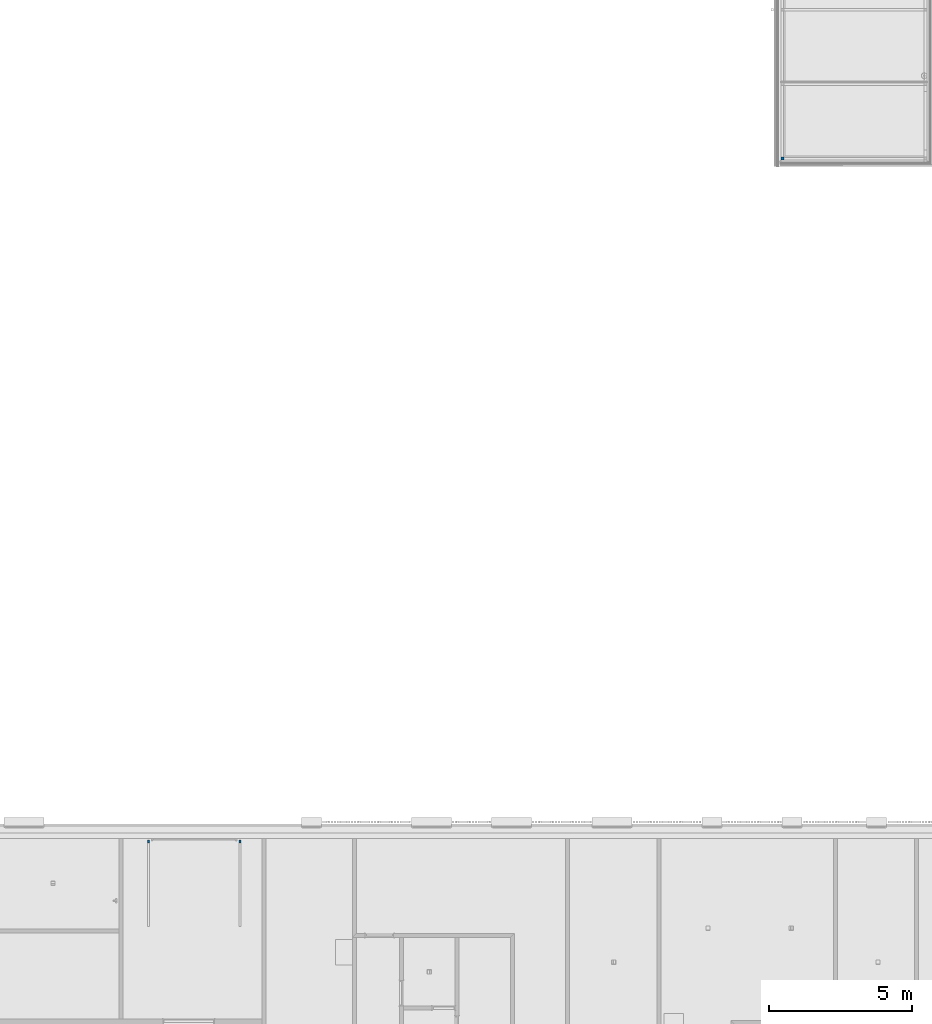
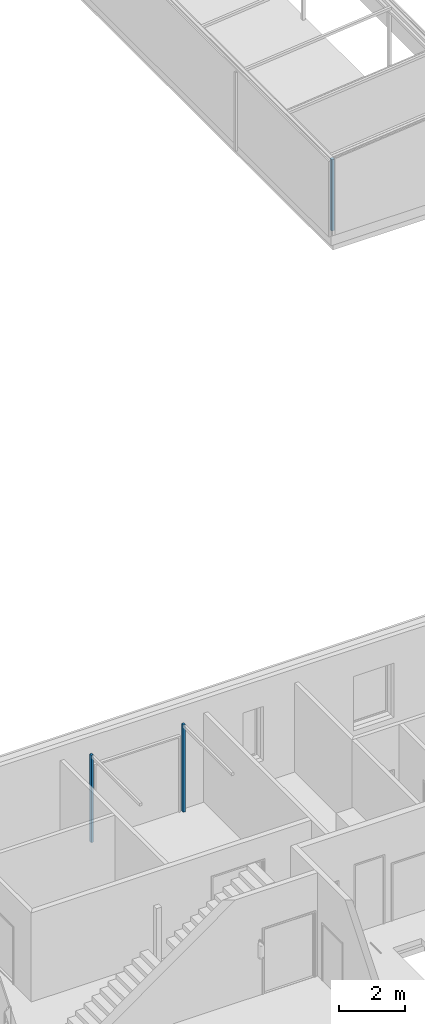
# One storey, part 6 of 112: 3 columns.
"""IFC2X3 building model written with IfcOpenShell, lengths in millimetres."""

import ifcopenshell
import ifcopenshell.guid

model = None  # the IFC model being written
_history = None  # IfcOwnerHistory: only IFC2X3 demands one
_inside = {}  # id of a spatial element -> (the spatial element, [elements in it])
_under = {}  # id of a project, library or spatial element -> (it, [spatial elements below it])
_declared = {}  # id of a project -> (the project, [libraries it declares])
_typed = {}  # id of a type object -> (the type object, [elements of that type])
_made_of = {}  # id of a material, layer set ... -> (it, [elements and type objects made of it])


def new_model(schema):
    """Start an empty IFC model of exactly this schema.

    Asked for "IFC4X3", IfcOpenShell would pick the latest addendum, in which some entities
    have other attributes; the version numbers below select the first issue.
    IFC2X3 requires an IfcOwnerHistory on every rooted entity: one is made here for all.
    """
    global model, _history
    if schema == "IFC4X3":
        model = ifcopenshell.file(schema_version=(4, 3, 0, 0))
    else:
        model = ifcopenshell.file(schema=schema)
    _inside.clear()
    _under.clear()
    _declared.clear()
    _typed.clear()
    _made_of.clear()
    _history = None
    if model.schema == "IFC2X3":
        org = make("IfcOrganization", Name="unknown")
        user = make(
            "IfcPersonAndOrganization",
            ThePerson=make("IfcPerson", FamilyName="unknown"),
            TheOrganization=org,
        )
        app = make(
            "IfcApplication",
            ApplicationDeveloper=org,
            Version="unknown",
            ApplicationFullName="unknown",
            ApplicationIdentifier="unknown",
        )
        _history = make(
            "IfcOwnerHistory",
            OwningUser=user,
            OwningApplication=app,
            ChangeAction="ADDED",
            CreationDate=0,
        )
    return model


def make(cls, **values):
    """One entity of the class cls with the attributes given. An attribute that is None is left unset."""
    return model.create_entity(
        cls, **{name: value for name, value in values.items() if value is not None}
    )


def entity(cls, *values):
    """Any entity or typed value of the class cls, its attributes in the order of the schema. None: left unset."""
    e = model.create_entity(cls)
    for i, value in enumerate(values):
        if value is not None:
            e[i] = value
    return e


def rooted(cls, **values):
    """An entity with a GlobalId (a new one), such as an element, a storey or a relation."""
    return make(cls, GlobalId=ifcopenshell.guid.new(), OwnerHistory=_history, **values)


def si_unit(unit_type, name, prefix=None):
    """IfcSIUnit, for example si_unit("LENGTHUNIT", "METRE", prefix="MILLI")."""
    return make("IfcSIUnit", UnitType=unit_type, Prefix=prefix, Name=name)


def converted_unit(unit_type, name, factor, base, dimensions=None, offset=None):
    """IfcConversionBasedUnit, such as the inch: factor (a typed value) times the base unit."""
    return make(
        "IfcConversionBasedUnit"
        if offset is None
        else "IfcConversionBasedUnitWithOffset",
        ConversionOffset=offset,
        Dimensions=None
        if dimensions is None
        else entity("IfcDimensionalExponents", *dimensions),
        UnitType=unit_type,
        Name=name,
        ConversionFactor=make(
            "IfcMeasureWithUnit", ValueComponent=factor, UnitComponent=base
        ),
    )


def derived_unit(unit_type, elements):
    """IfcDerivedUnit: a product of units, each with its exponent."""
    return make(
        "IfcDerivedUnit",
        Elements=[
            make("IfcDerivedUnitElement", Unit=unit, Exponent=power)
            for unit, power in elements
        ],
        UnitType=unit_type,
    )


def money_unit(currency):
    """IfcMonetaryUnit."""
    return make("IfcMonetaryUnit", Currency=currency)


def assignment(units):
    """IfcUnitAssignment: the units of a project."""
    return None if units is None else make("IfcUnitAssignment", Units=units)


def point(xyz):
    """IfcCartesianPoint."""
    return None if xyz is None else make("IfcCartesianPoint", Coordinates=xyz)


def direction(xyz):
    """IfcDirection."""
    return None if xyz is None else make("IfcDirection", DirectionRatios=xyz)


def frame(location, z_axis=None, x_axis=None):
    """IfcAxis2Placement3D, a coordinate frame: its origin and axes. An axis left out is left unset."""
    return make(
        "IfcAxis2Placement3D",
        Location=point(location),
        Axis=direction(z_axis),
        RefDirection=direction(x_axis),
    )


def frame_2d(location, x_axis=None):
    """IfcAxis2Placement2D, a coordinate frame in the plane: its origin and x axis."""
    return make(
        "IfcAxis2Placement2D", Location=point(location), RefDirection=direction(x_axis)
    )


def origin_with_axes():
    """The frame at (0, 0, 0) with the z axis (0, 0, 1) and the x axis (1, 0, 0) written out."""
    return frame((0.0, 0.0, 0.0), z_axis=(0.0, 0.0, 1.0), x_axis=(1.0, 0.0, 0.0))


def origin_2d_with_axis():
    """The frame at (0, 0) in the plane with the x axis (1, 0) written out."""
    return frame_2d((0.0, 0.0), x_axis=(1.0, 0.0))


def place(relative_to, where):
    """IfcLocalPlacement: puts the frame where relative to a parent placement (None: the world)."""
    return make(
        "IfcLocalPlacement", PlacementRelTo=relative_to, RelativePlacement=where
    )


def context(
    kind, dimensions, precision=None, world=None, true_north=None, identifier=None
):
    """IfcGeometricRepresentationContext, for example the 3D "Model" context."""
    return make(
        "IfcGeometricRepresentationContext",
        ContextIdentifier=identifier,
        ContextType=kind,
        CoordinateSpaceDimension=dimensions,
        Precision=precision,
        WorldCoordinateSystem=world,
        TrueNorth=true_north,
    )


def subcontext(parent, identifier, kind, view, scale=None):
    """IfcGeometricRepresentationSubContext, for example "Body" below "Model"."""
    return make(
        "IfcGeometricRepresentationSubContext",
        ContextIdentifier=identifier,
        ContextType=kind,
        ParentContext=parent,
        TargetScale=scale,
        TargetView=view,
    )


def project(units=None, contexts=None):
    """IfcProject with its units and contexts."""
    return rooted(
        "IfcProject",
        Name="project",
        RepresentationContexts=contexts,
        UnitsInContext=assignment(units),
    )


def spatial(cls, under=None, at=None, **own):
    """A site, building, storey or space (cls), placed at a placement, below another one or the project."""
    s = rooted(cls, ObjectPlacement=at, **own)
    if under is not None:
        _under.setdefault(under.id(), (under, []))[1].append(s)
    return s


def profile(cls, at=None, kind="AREA", **sizes):
    """A parametric profile (cls). Its sizes go by their IFC names, for example OverallWidth=200.0."""
    return make(cls, ProfileType=kind, Position=at, **sizes)


def rectangle(**sizes):
    """IfcRectangleProfileDef."""
    return profile("IfcRectangleProfileDef", **sizes)


def extrude(swept, where, along, depth):
    """IfcExtrudedAreaSolid: the profile swept, set in the frame where, extruded along a direction by depth."""
    return make(
        "IfcExtrudedAreaSolid",
        SweptArea=swept,
        Position=where,
        ExtrudedDirection=direction(along),
        Depth=depth,
    )


def shape(context_of_items, identifier, shape_type, items):
    """IfcShapeRepresentation: the items that make up one representation, for example the "Body"."""
    return make(
        "IfcShapeRepresentation",
        ContextOfItems=context_of_items,
        RepresentationIdentifier=identifier,
        RepresentationType=shape_type,
        Items=items,
    )


def material(Name=None, Category=None):
    """IfcMaterial."""
    return make("IfcMaterial", Name=Name, Category=Category)


def made_of(thing, what):
    """Note that an element or type object is made of a material, layer set ...; save() writes the relation."""
    if what is not None:
        _made_of.setdefault(what.id(), (what, []))[1].append(thing)
    return thing


def type_object(cls, material=None, **own):
    """A type object (cls), such as IfcWallType, which elements share."""
    return made_of(rooted(cls, **own), material)


def element(
    cls,
    number,
    at=None,
    inside=None,
    cuts=None,
    type_object=None,
    material=None,
    context=None,
    identifier="Body",
    shape_type=None,
    held_by="IfcProductDefinitionShape",
    body=None,
    shapes=None,
    **own,
):
    """One element of the class cls, such as IfcWall. Its Tag is "e" and its number.

    at: its placement. inside: the storey or other place that contains it. cuts: it is an
    opening in that element (IfcRelVoidsElement). A single representation is given by context,
    identifier, shape_type and body (its items); several are given by shapes. held_by: the class
    of the entity that holds the representations. save() writes the other relations.
    """
    e = rooted(cls, Tag="e%d" % number, ObjectPlacement=at, **own)
    if body is not None:
        shapes = [shape(context, identifier, shape_type, body)]
    if shapes is not None:
        e.Representation = make(held_by, Representations=shapes)
    if inside is not None:
        _inside.setdefault(inside.id(), (inside, []))[1].append(e)
    if cuts is not None:
        rooted(
            "IfcRelVoidsElement", RelatingBuildingElement=cuts, RelatedOpeningElement=e
        )
    if type_object is not None:
        _typed.setdefault(type_object.id(), (type_object, []))[1].append(e)
    return made_of(e, material)


def aggregate(whole, parts):
    """IfcRelAggregates: a whole, such as a stair, and the parts it consists of."""
    return rooted("IfcRelAggregates", RelatingObject=whole, RelatedObjects=parts)


def save(model, path):
    """Write the relations noted so far, then the file.

    IfcRelAggregates (storeys below a building ...), IfcRelContainedInSpatialStructure (elements
    in a storey), IfcRelDefinesByType, IfcRelAssociatesMaterial and IfcRelDeclares: one each for
    every whole, place, type object, material and project.
    """
    for whole, parts in _under.values():
        aggregate(whole, parts)
    for where, things in _inside.values():
        rooted(
            "IfcRelContainedInSpatialStructure",
            RelatedElements=things,
            RelatingStructure=where,
        )
    for kind, things in _typed.values():
        rooted("IfcRelDefinesByType", RelatedObjects=things, RelatingType=kind)
    for what, things in _made_of.values():
        rooted("IfcRelAssociatesMaterial", RelatedObjects=things, RelatingMaterial=what)
    for by, libraries in _declared.values():
        rooted("IfcRelDeclares", RelatingContext=by, RelatedDefinitions=libraries)
    model.write(path)


model = new_model("IFC2X3")

# Units and contexts
model_context = context("Model", 3, precision=0.01, world=origin_with_axes(), true_north=direction((0.0, 1.0)))
body_context = subcontext(model_context, "Body", "Model", "MODEL_VIEW")
ifc_project = project(units=[si_unit("LENGTHUNIT", "METRE", prefix="MILLI"), si_unit("AREAUNIT", "SQUARE_METRE"), si_unit("VOLUMEUNIT", "CUBIC_METRE"), converted_unit("PLANEANGLEUNIT", "DEGREE", entity("IfcPlaneAngleMeasure", 0.0174532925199), si_unit("PLANEANGLEUNIT", "RADIAN"), dimensions=[0, 0, 0, 0, 0, 0, 0]), si_unit("SOLIDANGLEUNIT", "STERADIAN"), money_unit("EUR"), converted_unit("TIMEUNIT", "Year", entity("IfcTimeMeasure", 31556926.0), si_unit("TIMEUNIT", "SECOND"), dimensions=[0, 0, 1, 0, 0, 0, 0]), si_unit("MASSUNIT", "GRAM", prefix="KILO"), si_unit("THERMODYNAMICTEMPERATUREUNIT", "DEGREE_CELSIUS"), si_unit("LUMINOUSINTENSITYUNIT", "LUMEN"), si_unit("ENERGYUNIT", "JOULE", prefix="MEGA"), derived_unit("THERMALCONDUCTANCEUNIT", [(si_unit("POWERUNIT", "WATT"), 1), (si_unit("LENGTHUNIT", "METRE"), -1), (si_unit("THERMODYNAMICTEMPERATUREUNIT", "KELVIN"), -1)]), derived_unit("SPECIFICHEATCAPACITYUNIT", [(si_unit("ENERGYUNIT", "JOULE"), 1), (si_unit("MASSUNIT", "GRAM", prefix="KILO"), -1), (si_unit("THERMODYNAMICTEMPERATUREUNIT", "KELVIN"), -1)]), derived_unit("MASSDENSITYUNIT", [(si_unit("MASSUNIT", "GRAM", prefix="KILO"), 1), (si_unit("VOLUMEUNIT", "CUBIC_METRE"), -1)])], contexts=[model_context])

# Site, building, storey
site_placement = place(None, origin_with_axes())
site = spatial("IfcSite", under=ifc_project, at=site_placement, Name="Politse- ja Piirivalveameti ning Päästeameti ühishoone", CompositionType="ELEMENT")
building_placement = place(site_placement, origin_with_axes())
building = spatial("IfcBuilding", under=site, at=building_placement, Name="Politse- ja Piirivalveameti ning Päästeameti ühishoone", CompositionType="ELEMENT")
storey_placement = place(building_placement, origin_with_axes())
storey = spatial("IfcBuildingStorey", under=building, at=storey_placement, Name="Esimene korrus", CompositionType="ELEMENT", Elevation=0.0)

# Columns
ifc_material = material(Name="KON-00_GENEERILINE - KONSTRUKTSIOON")
column_type_1 = type_object("IfcColumnType", Name="KON-00_GENEERILINE - KONSTRUKTSIOON 100 x 100", PredefinedType="COLUMN")
column_placement = place(storey_placement, frame((46341.8237405, 44749.8510263, 300.0), z_axis=(0.0, 0.0, 1.0), x_axis=(0.0, -1.0, 0.0)))
element("IfcColumn", 1, at=column_placement, inside=storey, type_object=column_type_1, material=ifc_material, Name="POST", ObjectType="COLUMN", context=body_context, shape_type="SweptSolid", body=[
    extrude(rectangle(XDim=100.0, YDim=100.0, at=origin_2d_with_axis()), origin_with_axes(), (0.0, 0.0, 1.0), 2633.49816673),
])
column_type_2 = type_object("IfcColumnType", Name="KON-00_GENEERILINE - KONSTRUKTSIOON 80 x 100", PredefinedType="COLUMN")
for number, where, z_axis, x_axis, name in (
    (2, (24194.6772624, 20892.8925512, 0.0), (0.0, 0.0, 1.0), (-1.0, 0.0, 0.0), "POST"),
    (3, (27394.6772624, 20892.8925512, 0.0), (0.0, 0.0, 1.0), (-1.0, 0.0, 0.0), "POST"),
):
    element("IfcColumn", number, at=place(storey_placement, frame(where, z_axis=z_axis, x_axis=x_axis)), inside=storey, type_object=column_type_2, material=ifc_material, Name=name, ObjectType="COLUMN", context=body_context, shape_type="SweptSolid", body=[
        extrude(rectangle(XDim=80.0, YDim=100.0, at=origin_2d_with_axis()), frame((0.0, 0.0, 0.0), z_axis=(0.0, 0.0, -1.0), x_axis=(-1.0, 0.0, 0.0)), (0.0, 0.0, -1.0), 3215.0),
    ])

save(model, "model.ifc")
